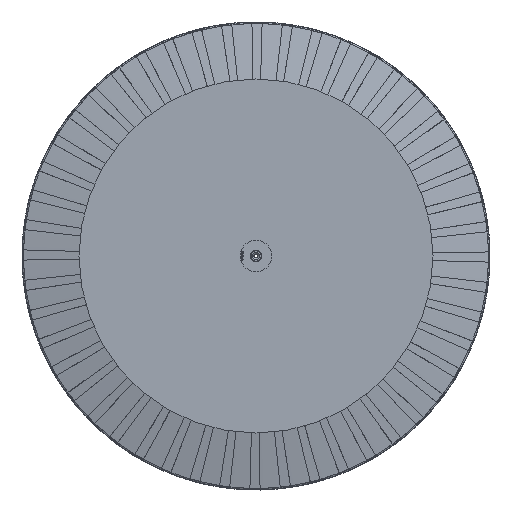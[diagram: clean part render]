
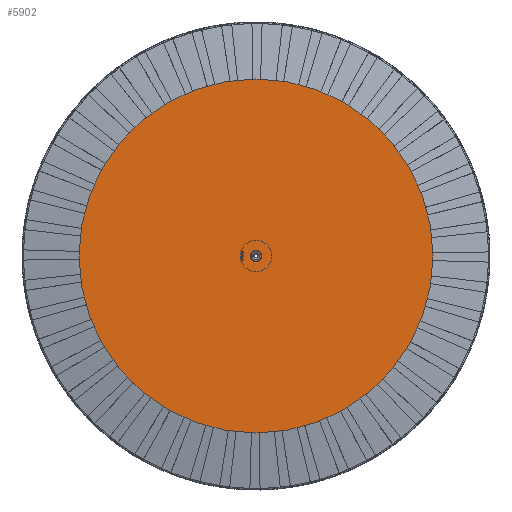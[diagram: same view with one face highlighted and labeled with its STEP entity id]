
A CAD part, front view. The second image highlights one B-rep face of the part: STEP entity #5902.
In plain terms, the highlighted planar face has unit normal (0, -1, 0).
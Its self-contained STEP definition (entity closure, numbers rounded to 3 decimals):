
#988 = CARTESIAN_POINT ( 'NONE',  ( 0., 0., 0. ) ) ;
#1011 = DIRECTION ( 'NONE',  ( 0., 0., -1. ) ) ;
#1537 = DIRECTION ( 'NONE',  ( 0., 0., 1. ) ) ;
#1796 = DIRECTION ( 'NONE',  ( 0., 1., 0. ) ) ;
#1952 = ORIENTED_EDGE ( 'NONE', *, *, #24108, .F. ) ;
#1997 = CARTESIAN_POINT ( 'NONE',  ( -9., 0., 0. ) ) ;
#2664 = EDGE_CURVE ( 'NONE', #37029, #38429, #5238, .T. ) ;
#3822 = CARTESIAN_POINT ( 'NONE',  ( -9., 0., 0. ) ) ;
#3883 = EDGE_CURVE ( 'NONE', #7116, #5604, #32033, .T. ) ;
#4008 = DIRECTION ( 'NONE',  ( 0., 1., 0. ) ) ;
#5133 = DIRECTION ( 'NONE',  ( 0., 0., -1. ) ) ;
#5238 = CIRCLE ( 'NONE', #36098, 450. ) ;
#5604 = VERTEX_POINT ( 'NONE', #38363 ) ;
#5846 = DIRECTION ( 'NONE',  ( 0., -1., 0. ) ) ;
#5855 = AXIS2_PLACEMENT_3D ( 'NONE', #10987, #35108, #1537 ) ;
#5902 = ADVANCED_FACE ( 'NONE', ( #29270, #13971 ), #23449, .F. ) ;
#6424 = DIRECTION ( 'NONE',  ( 0., 0., 1. ) ) ;
#7116 = VERTEX_POINT ( 'NONE', #17960 ) ;
#7252 = AXIS2_PLACEMENT_3D ( 'NONE', #19520, #37232, #1011 ) ;
#7413 = CARTESIAN_POINT ( 'NONE',  ( 0., 0., -8.96 ) ) ;
#8372 = CARTESIAN_POINT ( 'NONE',  ( 0., 0., 0. ) ) ;
#8429 = ORIENTED_EDGE ( 'NONE', *, *, #29855, .F. ) ;
#9673 = DIRECTION ( 'NONE',  ( 0., -1., 0. ) ) ;
#10987 = CARTESIAN_POINT ( 'NONE',  ( 0., 0., 0. ) ) ;
#13093 = VERTEX_POINT ( 'NONE', #35510 ) ;
#13133 = CIRCLE ( 'NONE', #25339, 8.96 ) ;
#13798 = CARTESIAN_POINT ( 'NONE',  ( -9., 0., -2.8 ) ) ;
#13865 = ORIENTED_EDGE ( 'NONE', *, *, #37238, .F. ) ;
#13971 = FACE_BOUND ( 'NONE', #38966, .T. ) ;
#14051 = DIRECTION ( 'NONE',  ( 0., 0., 1. ) ) ;
#14243 = DIRECTION ( 'NONE',  ( 0., 0., -1. ) ) ;
#15614 = CIRCLE ( 'NONE', #7252, 2.8 ) ;
#16291 = CARTESIAN_POINT ( 'NONE',  ( 0., 0., 450. ) ) ;
#16359 = AXIS2_PLACEMENT_3D ( 'NONE', #37889, #31846, #19402 ) ;
#16614 = EDGE_LOOP ( 'NONE', ( #13865, #36497 ) ) ;
#16653 = CIRCLE ( 'NONE', #17292, 8.96 ) ;
#17292 = AXIS2_PLACEMENT_3D ( 'NONE', #33415, #5846, #29980 ) ;
#17960 = CARTESIAN_POINT ( 'NONE',  ( -8.525, 0., 2.759 ) ) ;
#19402 = DIRECTION ( 'NONE',  ( 0., 0., -1. ) ) ;
#19423 = CARTESIAN_POINT ( 'NONE',  ( 0., 0., -450. ) ) ;
#19520 = CARTESIAN_POINT ( 'NONE',  ( -9., 0., 0. ) ) ;
#20990 = ORIENTED_EDGE ( 'NONE', *, *, #3883, .F. ) ;
#21284 = VERTEX_POINT ( 'NONE', #39736 ) ;
#21361 = DIRECTION ( 'NONE',  ( 0., 0., -1. ) ) ;
#21687 = ORIENTED_EDGE ( 'NONE', *, *, #25843, .F. ) ;
#23449 = PLANE ( 'NONE',  #5855 ) ;
#24108 = EDGE_CURVE ( 'NONE', #36723, #13093, #15614, .T. ) ;
#25339 = AXIS2_PLACEMENT_3D ( 'NONE', #8372, #32500, #5133 ) ;
#25843 = EDGE_CURVE ( 'NONE', #13093, #33748, #13133, .T. ) ;
#26130 = EDGE_CURVE ( 'NONE', #33748, #21284, #34368, .T. ) ;
#27241 = ORIENTED_EDGE ( 'NONE', *, *, #26130, .F. ) ;
#27622 = CIRCLE ( 'NONE', #29546, 450. ) ;
#28113 = ORIENTED_EDGE ( 'NONE', *, *, #32942, .F. ) ;
#29270 = FACE_OUTER_BOUND ( 'NONE', #16614, .T. ) ;
#29333 = CARTESIAN_POINT ( 'NONE',  ( 0., 0., 0. ) ) ;
#29546 = AXIS2_PLACEMENT_3D ( 'NONE', #29333, #1796, #14051 ) ;
#29855 = EDGE_CURVE ( 'NONE', #21284, #7116, #16653, .T. ) ;
#29980 = DIRECTION ( 'NONE',  ( 0., 0., -1. ) ) ;
#31846 = DIRECTION ( 'NONE',  ( 0., -1., 0. ) ) ;
#32033 = CIRCLE ( 'NONE', #35897, 2.8 ) ;
#32500 = DIRECTION ( 'NONE',  ( 0., -1., 0. ) ) ;
#32942 = EDGE_CURVE ( 'NONE', #5604, #36723, #33906, .T. ) ;
#33415 = CARTESIAN_POINT ( 'NONE',  ( 0., 0., 0. ) ) ;
#33748 = VERTEX_POINT ( 'NONE', #7413 ) ;
#33906 = CIRCLE ( 'NONE', #39011, 2.8 ) ;
#34368 = CIRCLE ( 'NONE', #16359, 8.96 ) ;
#35108 = DIRECTION ( 'NONE',  ( 0., 1., 0. ) ) ;
#35510 = CARTESIAN_POINT ( 'NONE',  ( -8.525, 0., -2.759 ) ) ;
#35897 = AXIS2_PLACEMENT_3D ( 'NONE', #1997, #38956, #14243 ) ;
#36098 = AXIS2_PLACEMENT_3D ( 'NONE', #988, #4008, #6424 ) ;
#36497 = ORIENTED_EDGE ( 'NONE', *, *, #2664, .F. ) ;
#36723 = VERTEX_POINT ( 'NONE', #13798 ) ;
#37029 = VERTEX_POINT ( 'NONE', #16291 ) ;
#37232 = DIRECTION ( 'NONE',  ( 0., -1., 0. ) ) ;
#37238 = EDGE_CURVE ( 'NONE', #38429, #37029, #27622, .T. ) ;
#37889 = CARTESIAN_POINT ( 'NONE',  ( 0., 0., 0. ) ) ;
#38363 = CARTESIAN_POINT ( 'NONE',  ( -9., 0., 2.8 ) ) ;
#38429 = VERTEX_POINT ( 'NONE', #19423 ) ;
#38956 = DIRECTION ( 'NONE',  ( 0., -1., 0. ) ) ;
#38966 = EDGE_LOOP ( 'NONE', ( #21687, #1952, #28113, #20990, #8429, #27241 ) ) ;
#39011 = AXIS2_PLACEMENT_3D ( 'NONE', #3822, #9673, #21361 ) ;
#39736 = CARTESIAN_POINT ( 'NONE',  ( 0., 0., 8.96 ) ) ;
